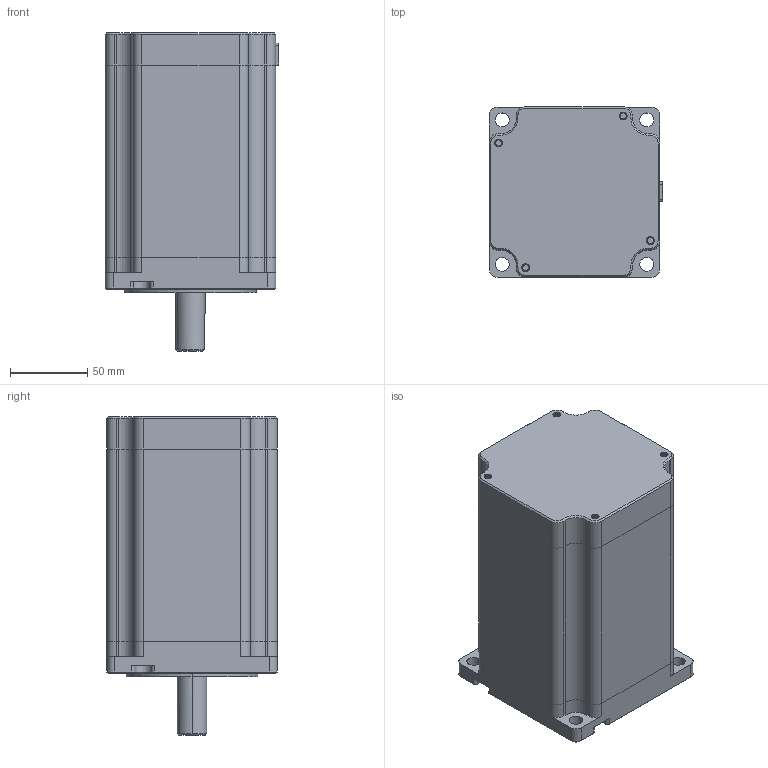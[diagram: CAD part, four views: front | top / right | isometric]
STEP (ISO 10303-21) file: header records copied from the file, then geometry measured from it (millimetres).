
FILE_DESCRIPTION((''),'2;1');
FILE_NAME('QL110HB165-06A','2022-03-24T10:43:01',('qingl'),(''),'CREO PARAMETRIC BY PTC INC, 2019224','CREO PARAMETRIC BY PTC INC, 2019224','');
FILE_SCHEMA(('CONFIG_CONTROL_DESIGN'));
Length unit declared in the file: millimetre
Products named in the file (1): QL110HB165-06A
Bounding box: 112 x 110 x 206 mm (x, y, z)
Volume: 1831426.4 mm3; surface area: 96998.4 mm2
Topology: 1 solids, 1 shells, 330 faces, 838 edges, 522 vertices
Faces by surface type: cylinder 187, plane 106, cone 29, bspline 8
Entity records: 13388 total; most frequent: CARTESIAN_POINT 5714, ORIENTED_EDGE 1676, DIRECTION 1452, EDGE_CURVE 838, VERTEX_POINT 522, AXIS2_PLACEMENT_3D 510, VECTOR 432, LINE 432
